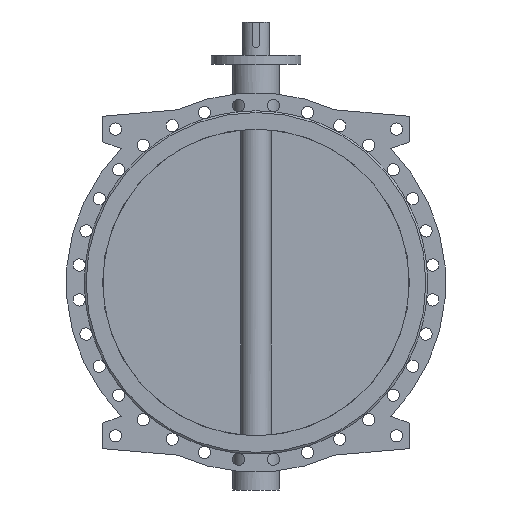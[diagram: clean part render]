
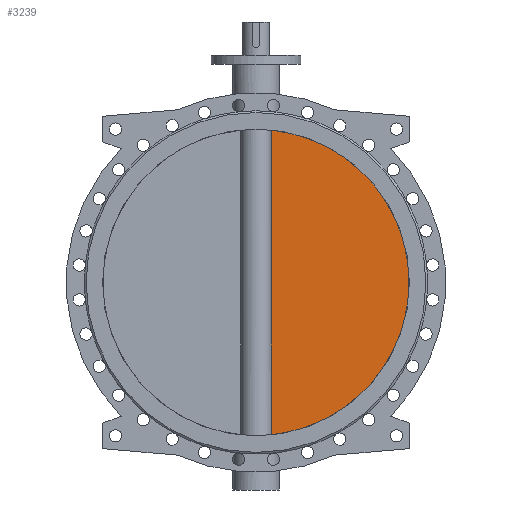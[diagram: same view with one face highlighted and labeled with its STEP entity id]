
A CAD part, front view. The second image highlights one B-rep face of the part: STEP entity #3239.
In plain terms, the highlighted planar face has unit normal (0, -1, 0).
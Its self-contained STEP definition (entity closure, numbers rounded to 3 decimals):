
#3239=ADVANCED_FACE('',(#6031),#6033,.T.);
#6031=FACE_BOUND('',#6032,.T.);
#6032=EDGE_LOOP('',(#8483,#8484));
#6033=PLANE('',#6034);
#6034=AXIS2_PLACEMENT_3D('',#6035,#6036,#6037);
#6035=CARTESIAN_POINT('',(0.,-10.,0.));
#6036=DIRECTION('',(0.,-1.,0.));
#6037=DIRECTION('',(1.,0.,0.));
#8483=ORIENTED_EDGE('',*,*,#9701,.T.);
#8484=ORIENTED_EDGE('',*,*,#9711,.T.);
#9701=EDGE_CURVE('',#11731,#11732,#11733,.F.);
#9711=EDGE_CURVE('',#11732,#11731,#11751,.T.);
#11731=VERTEX_POINT('',#19840);
#11732=VERTEX_POINT('',#19841);
#11733=CIRCLE('',#19842,600.);
#11751=LINE('',#20171,#20172);
#19840=CARTESIAN_POINT('',(59.161,-10.,-597.076));
#19841=CARTESIAN_POINT('',(59.161,-10.,597.076));
#19842=AXIS2_PLACEMENT_3D('',#19843,#19844,#19845);
#19843=CARTESIAN_POINT('',(0.,-10.,0.));
#19844=DIRECTION('',(0.,1.,0.));
#19845=DIRECTION('',(0.099,0.,0.995));
#20171=CARTESIAN_POINT('',(59.161,-10.,597.076));
#20172=VECTOR('',#20173,1.);
#20173=DIRECTION('',(0.,0.,-1.));
